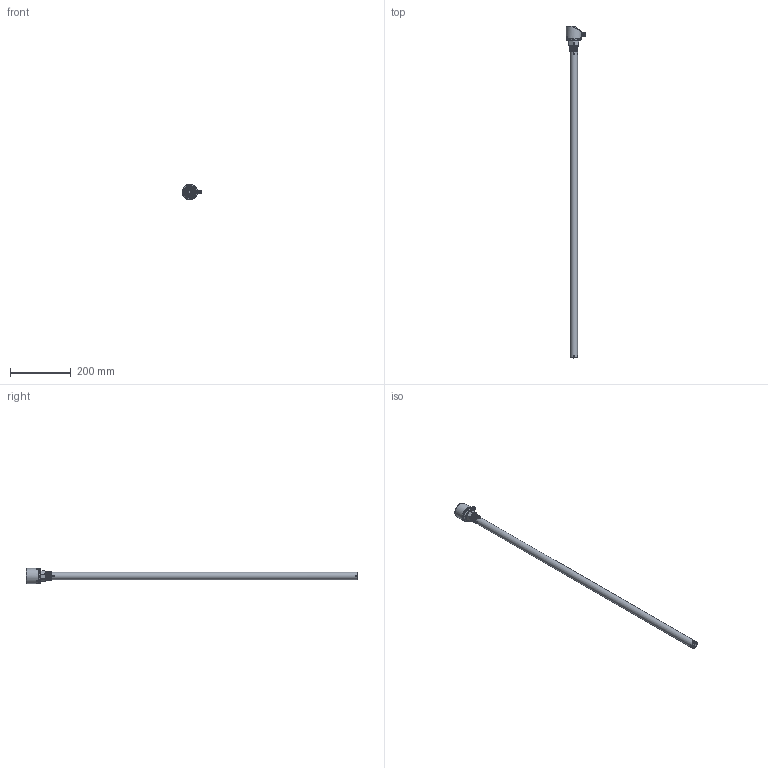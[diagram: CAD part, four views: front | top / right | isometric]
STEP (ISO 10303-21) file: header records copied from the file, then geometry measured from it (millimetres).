
FILE_DESCRIPTION (( 'STEP AP214' ), '1' );
FILE_NAME ('3-4数显电容-1000（同轴）.STEP', '2025-03-11T06:19:31', ( '' ), ( '' ), 'SwSTEP 2.0', 'SolidWorks 2020', '' );
FILE_SCHEMA (( 'AUTOMOTIVE_DESIGN' ));
Length unit declared in the file: millimetre
Products named in the file (9): 揤薯珆尨欶; 恦謫抻芛5; PVC躇猾菜; 抻芛ㄗ蟀哿講ㄘ; 揤薯奻裔; 偌瑩簽; 滅阨諉芛褲极1; 3-4数显电容-1000（同轴）; 肮粣奪
Assembly tree (10 placements, depth 2):
  3-4数显电容-1000（同轴）
    揤薯奻裔
    揤薯珆尨欶
    滅阨諉芛褲极1
    偌瑩簽  x3
    PVC躇猾菜
    恦謫抻芛5
    抻芛ㄗ蟀哿講ㄘ
    肮粣奪
Bounding box: 64 x 1090.1 x 50 mm (x, y, z)
Volume: 222942 mm3; surface area: 206745.7 mm2
Topology: 10 solids, 10 shells, 318 faces, 752 edges, 486 vertices
Faces by surface type: plane 128, cylinder 118, cone 44, bspline 13, torus 11, sphere 4
Full cylindrical faces by diameter (mm): 1 x4, 1.2 x3, 1.8 x1, 2 x3, 2.5 x6, 2.8 x1, 4.3 x3, 4.5 x6, 5 x8, 6 x1, 7.2 x1, 8 x1, 8.5 x1, 9.75 x1, 10 x1, 10.49 x1, 10.5 x1, 10.8 x1, 10.9 x1, 11 x2, 12 x1, 21 x2, 24 x2, 29.5 x1, 35 x1, 37 x1, 43.9 x1, 45.4 x1, 45.6 x2, 48 x3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
Entity records: 14721 total; most frequent: CARTESIAN_POINT 7955, DIRECTION 1314, ORIENTED_EDGE 1104, EDGE_CURVE 552, AXIS2_PLACEMENT_3D 536, EDGE_LOOP 479, VERTEX_POINT 411, FACE_OUTER_BOUND 359
